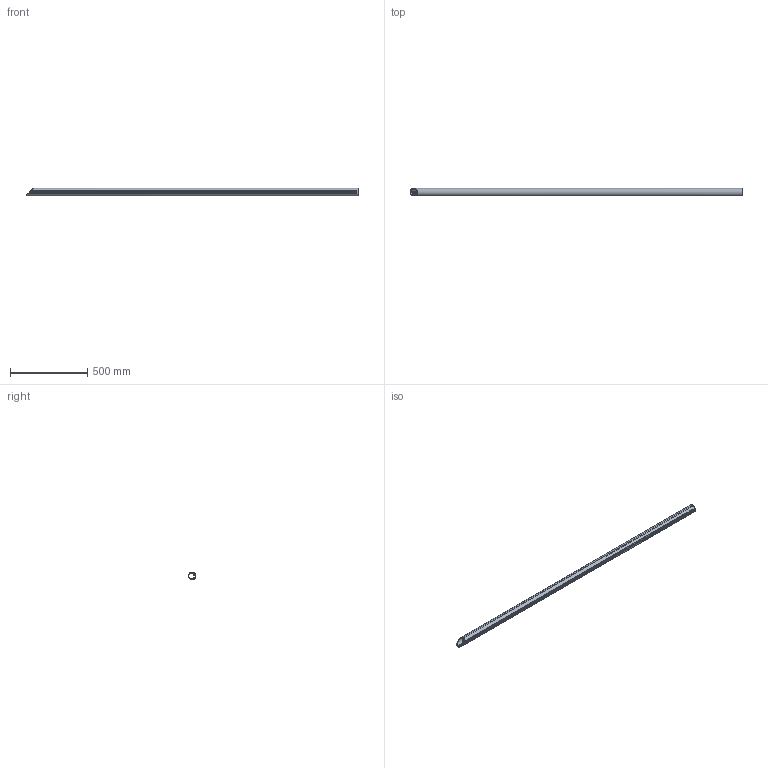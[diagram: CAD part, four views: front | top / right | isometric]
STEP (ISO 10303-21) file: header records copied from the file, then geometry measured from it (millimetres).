
FILE_DESCRIPTION(/* description */ (''),/* implementation_level */ '2;1');
FILE_NAME(/* name */ 'Pos127-HANDREGEL PROFIEL 50X47-Aluminium-1st',/* time_stamp */ '2024-08-06T11:49:42+02:00',/* author */ (''),/* organization */ (''),/* preprocessor_version */ 'ST-DEVELOPER v16.5',/* originating_system */ 'HiCAD 2024 2901.2 Build 361',/* authorisation */ '');
FILE_SCHEMA (('AUTOMOTIVE_DESIGN { 1 0 10303 214 1 1 1 1 }'));
Length unit declared in the file: millimetre
Products named in the file (1): Pos127-HANDREGEL PROFIEL 50X47-Aluminium-1st
Bounding box: 2142.49 x 46.5 x 50 mm (x, y, z)
Volume: 1165340.8 mm3; surface area: 788734.2 mm2
Topology: 1 solids, 1 shells, 44 faces, 126 edges, 84 vertices
Faces by surface type: cylinder 30, plane 14
Entity records: 2752 total; most frequent: DIRECTION 274, CARTESIAN_POINT 254, PRESENTATION_STYLE_ASSIGNMENT 253, COLOUR_RGB 253, DRAUGHTING_PRE_DEFINED_CURVE_FONT 252, CURVE_STYLE 252, OVER_RIDING_STYLED_ITEM 252, ORIENTED_EDGE 252
